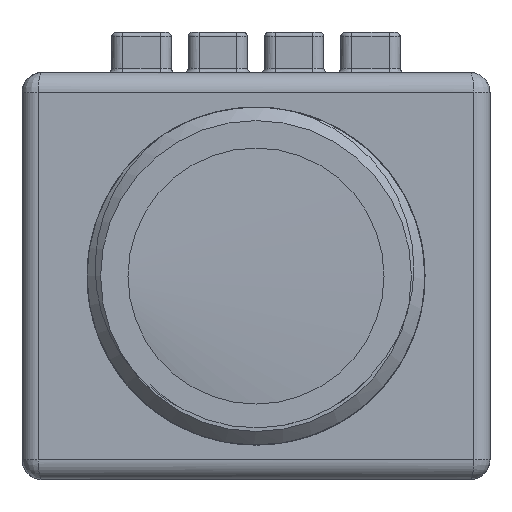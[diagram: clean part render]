
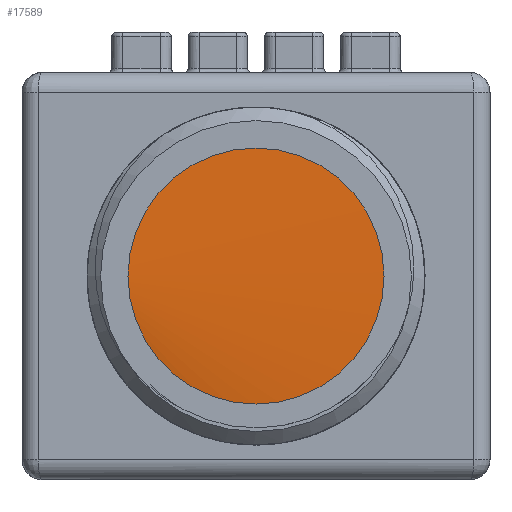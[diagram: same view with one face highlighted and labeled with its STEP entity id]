
A CAD part, front view. The second image highlights one B-rep face of the part: STEP entity #17589.
In plain terms, the highlighted cylindrical face has radius 8.425 mm (diameter 16.85 mm), a full revolution.
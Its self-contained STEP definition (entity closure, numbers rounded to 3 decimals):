
#1939=FACE_OUTER_BOUND('',#3088,.T.);
#3088=EDGE_LOOP('',(#10978,#10979,#10980));
#4344=B_SPLINE_CURVE_WITH_KNOTS('',3,(#23812,#23813,#23814,#23815,#23816,
#23817,#23818,#23819,#23820,#23821,#23822,#23823,#23824,#23825,#23826,#23827,
#23828,#23829,#23830,#23831,#23832,#23833,#23834,#23835,#23836,#23837,#23838,
#23839,#23840,#23841,#23842,#23843,#23844,#23845),.UNSPECIFIED.,.F.,.F.,
(4,3,3,3,3,3,3,3,3,3,3,4),(-36.629,-35.99,-35.256,
-34.603,-33.95,-33.297,-32.644,
-31.992,-31.339,-30.849,-30.359,
-30.346),.UNSPECIFIED.);
#5346=LINE('',#23406,#6066);
#5352=LINE('',#23811,#6072);
#6066=VECTOR('',#20066,8.25);
#6072=VECTOR('',#20086,8.25);
#6786=VERTEX_POINT('',#23404);
#6787=VERTEX_POINT('',#23405);
#6799=VERTEX_POINT('',#23810);
#8328=EDGE_CURVE('',#6786,#6787,#5346,.T.);
#8346=EDGE_CURVE('',#6799,#6787,#5352,.T.);
#8347=EDGE_CURVE('',#6799,#6786,#4344,.T.);
#10978=ORIENTED_EDGE('',*,*,#8328,.T.);
#10979=ORIENTED_EDGE('',*,*,#8346,.F.);
#10980=ORIENTED_EDGE('',*,*,#8347,.T.);
#16215=CYLINDRICAL_SURFACE('',#18760,8.425);
#17589=ADVANCED_FACE('',(#1939),#16215,.T.);
#18760=AXIS2_PLACEMENT_3D('',#23809,#20084,#20085);
#20066=DIRECTION('',(0.,-1.,0.));
#20084=DIRECTION('center_axis',(0.,-1.,0.));
#20085=DIRECTION('ref_axis',(1.,0.,0.));
#20086=DIRECTION('',(0.,1.,0.));
#23404=CARTESIAN_POINT('',(1104.344,394.998,10.15));
#23405=CARTESIAN_POINT('',(1104.344,393.685,10.15));
#23406=CARTESIAN_POINT('',(1104.344,401.748,10.15));
#23809=CARTESIAN_POINT('Origin',(1112.769,401.748,10.15));
#23810=CARTESIAN_POINT('',(1104.344,393.498,10.15));
#23811=CARTESIAN_POINT('',(1104.344,401.748,10.15));
#23812=CARTESIAN_POINT('Ctrl Pts',(1104.342,393.498,10.149));
#23813=CARTESIAN_POINT('Ctrl Pts',(1104.347,393.548,11.941));
#23814=CARTESIAN_POINT('Ctrl Pts',(1104.934,393.599,13.737));
#23815=CARTESIAN_POINT('Ctrl Pts',(1106.001,393.65,15.174));
#23816=CARTESIAN_POINT('Ctrl Pts',(1107.229,393.708,16.828));
#23817=CARTESIAN_POINT('Ctrl Pts',(1109.093,393.767,18.008));
#23818=CARTESIAN_POINT('Ctrl Pts',(1111.113,393.825,18.414));
#23819=CARTESIAN_POINT('Ctrl Pts',(1112.909,393.877,18.776));
#23820=CARTESIAN_POINT('Ctrl Pts',(1114.83,393.929,18.526));
#23821=CARTESIAN_POINT('Ctrl Pts',(1116.475,393.981,17.72));
#23822=CARTESIAN_POINT('Ctrl Pts',(1118.12,394.033,16.914));
#23823=CARTESIAN_POINT('Ctrl Pts',(1119.491,394.085,15.551));
#23824=CARTESIAN_POINT('Ctrl Pts',(1120.309,394.137,13.911));
#23825=CARTESIAN_POINT('Ctrl Pts',(1121.127,394.189,12.272));
#23826=CARTESIAN_POINT('Ctrl Pts',(1121.392,394.241,10.355));
#23827=CARTESIAN_POINT('Ctrl Pts',(1121.046,394.293,8.557));
#23828=CARTESIAN_POINT('Ctrl Pts',(1120.7,394.345,6.759));
#23829=CARTESIAN_POINT('Ctrl Pts',(1119.743,394.397,5.078));
#23830=CARTESIAN_POINT('Ctrl Pts',(1118.374,394.449,3.859));
#23831=CARTESIAN_POINT('Ctrl Pts',(1117.006,394.501,2.64));
#23832=CARTESIAN_POINT('Ctrl Pts',(1115.227,394.553,1.882));
#23833=CARTESIAN_POINT('Ctrl Pts',(1113.401,394.605,1.745));
#23834=CARTESIAN_POINT('Ctrl Pts',(1111.574,394.657,1.608));
#23835=CARTESIAN_POINT('Ctrl Pts',(1109.702,394.709,2.092));
#23836=CARTESIAN_POINT('Ctrl Pts',(1108.165,394.761,3.092));
#23837=CARTESIAN_POINT('Ctrl Pts',(1107.013,394.8,3.842));
#23838=CARTESIAN_POINT('Ctrl Pts',(1106.051,394.839,4.882));
#23839=CARTESIAN_POINT('Ctrl Pts',(1105.388,394.877,6.087));
#23840=CARTESIAN_POINT('Ctrl Pts',(1104.725,394.916,7.292));
#23841=CARTESIAN_POINT('Ctrl Pts',(1104.363,394.955,8.662));
#23842=CARTESIAN_POINT('Ctrl Pts',(1104.344,394.994,10.036));
#23843=CARTESIAN_POINT('Ctrl Pts',(1104.344,394.995,10.074));
#23844=CARTESIAN_POINT('Ctrl Pts',(1104.343,394.997,10.112));
#23845=CARTESIAN_POINT('Ctrl Pts',(1104.343,394.998,10.15));
